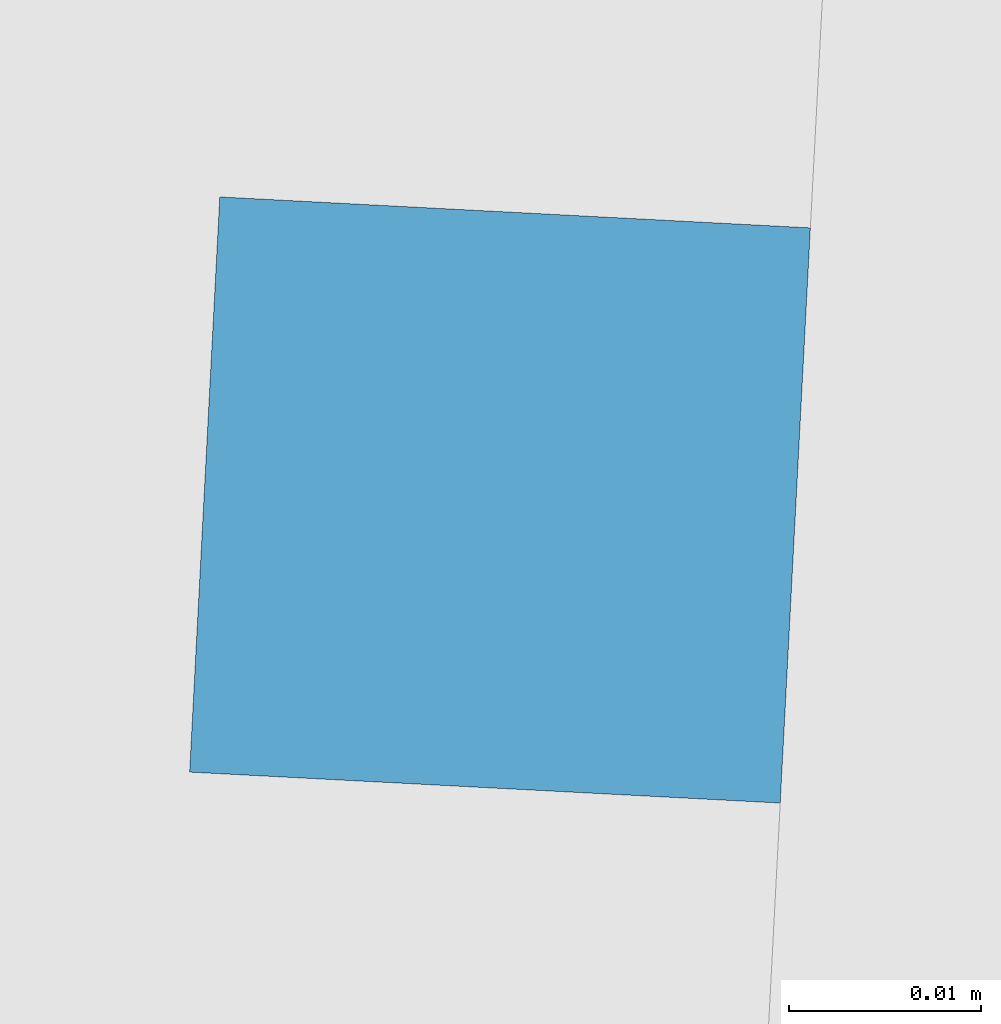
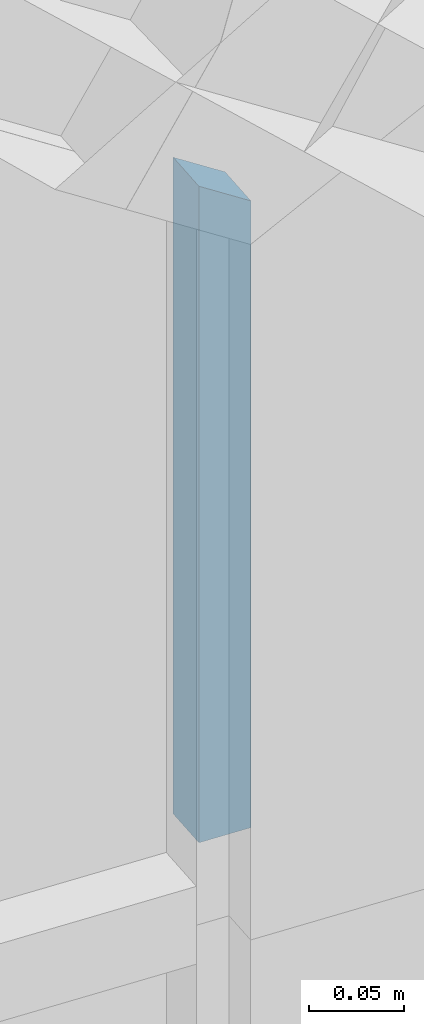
# One storey, part 70 of 82: 1 plate, 1 element without a shape of its own.
"""IFC2X3 building model written with IfcOpenShell, lengths in millimetres."""

from ifc_helpers import new_model, entity, si_unit, converted_unit, derived_unit, direction, frame, origin, place, context, subcontext, project, spatial, faceted_brep, source, transform, mapped, material, layer, layer_set, type_object, type_shapes, element, aggregate, save


model = new_model("IFC2X3")

# Units and contexts
model_context = context("Model", 3, precision=0.01, world=origin(), true_north=direction((6.12303176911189e-17, 1.0)))
body_context = subcontext(model_context, "Body", "Model", "MODEL_VIEW")
ifc_project = project(units=[si_unit("LENGTHUNIT", "METRE", prefix="MILLI"), si_unit("AREAUNIT", "SQUARE_METRE"), si_unit("VOLUMEUNIT", "CUBIC_METRE"), converted_unit("PLANEANGLEUNIT", "DEGREE", entity("IfcRatioMeasure", 0.0174532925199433), si_unit("PLANEANGLEUNIT", "RADIAN"), dimensions=[0, 0, 0, 0, 0, 0, 0]), si_unit("MASSUNIT", "GRAM", prefix="KILO"), derived_unit("MASSDENSITYUNIT", [(si_unit("MASSUNIT", "GRAM", prefix="KILO"), 1), (si_unit("LENGTHUNIT", "METRE"), -3)]), si_unit("TIMEUNIT", "SECOND"), si_unit("FREQUENCYUNIT", "HERTZ"), si_unit("THERMODYNAMICTEMPERATUREUNIT", "DEGREE_CELSIUS"), derived_unit("THERMALTRANSMITTANCEUNIT", [(si_unit("MASSUNIT", "GRAM", prefix="KILO"), 1), (si_unit("THERMODYNAMICTEMPERATUREUNIT", "KELVIN"), -1), (si_unit("TIMEUNIT", "SECOND"), -3)]), derived_unit("VOLUMETRICFLOWRATEUNIT", [(si_unit("LENGTHUNIT", "METRE"), 3), (si_unit("TIMEUNIT", "SECOND"), -1)]), si_unit("ELECTRICCURRENTUNIT", "AMPERE"), si_unit("ELECTRICVOLTAGEUNIT", "VOLT"), si_unit("POWERUNIT", "WATT"), si_unit("FORCEUNIT", "NEWTON", prefix="KILO"), si_unit("ILLUMINANCEUNIT", "LUX"), si_unit("LUMINOUSFLUXUNIT", "LUMEN"), si_unit("LUMINOUSINTENSITYUNIT", "CANDELA"), derived_unit("USERDEFINED", [(si_unit("MASSUNIT", "GRAM", prefix="KILO"), -1), (si_unit("LENGTHUNIT", "METRE"), -2), (si_unit("TIMEUNIT", "SECOND"), 3), (si_unit("LUMINOUSFLUXUNIT", "LUMEN"), 1)]), derived_unit("LINEARVELOCITYUNIT", [(si_unit("LENGTHUNIT", "METRE"), 1), (si_unit("TIMEUNIT", "SECOND"), -1)]), si_unit("PRESSUREUNIT", "PASCAL"), derived_unit("USERDEFINED", [(si_unit("LENGTHUNIT", "METRE"), -2), (si_unit("MASSUNIT", "GRAM", prefix="KILO"), 1), (si_unit("TIMEUNIT", "SECOND"), -2)])], contexts=[model_context])

# Site, building, storey
site_placement = place(None, origin())
site = spatial("IfcSite", under=ifc_project, at=site_placement, Name="表面", CompositionType="ELEMENT")
building_placement = place(site_placement, origin())
building = spatial("IfcBuilding", under=site, at=building_placement, CompositionType="ELEMENT")
storey_placement = place(building_placement, origin())
storey = spatial("IfcBuildingStorey", under=building, at=storey_placement, Name="1F", CompositionType="ELEMENT", Elevation=0.0)

# Curtain wall, plate
curtain_wall_type = type_object("IfcCurtainWallType", Name="幕墙系统:1450 x 2100mm", PredefinedType="NOTDEFINED")
curtain_wall_placement = place(storey_placement, origin())
curtain_wall = element("IfcCurtainWall", 1, at=curtain_wall_placement, inside=storey, type_object=curtain_wall_type, Name="幕墙系统:1450 x 2100mm", ObjectType="幕墙系统:1450 x 2100mm")
ifc_material = material(Name="<Unnamed>")
ifc_layer = layer(ifc_material, 30.0)
ifc_layer_set = layer_set([ifc_layer], Name="幕墙系统:1450 x 2100mm")
plate_type = type_object("IfcPlateType", Name="玻璃", PredefinedType="CURTAIN_PANEL", material=ifc_layer_set)
shared_shape = source(origin(), body_context, "Body", "Brep", [
    faceted_brep([(15.4015112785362, -15.0, 0.0), (15.4015112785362, -15.0, 402.773080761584), (-15.4015112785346, -15.0, 421.994566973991), (-15.4015112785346, -15.0, 0.0), (15.4015112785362, 15.0, 0.0), (-15.4015112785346, 15.0, 0.0), (-15.4015112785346, 15.0, 421.99456697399), (15.4015112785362, 15.0, 402.773080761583)], [[[0, 1, 2, 3]], [[4, 5, 6, 7]], [[3, 5, 4, 0]], [[2, 6, 5, 3]], [[1, 7, 6, 2]], [[0, 4, 7, 1]]]),
])
type_shapes(plate_type, [shared_shape])
plate_placement = place(curtain_wall_placement, frame((-18272.6126372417, 2177.04399687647, 10525.0), z_axis=(0.0, 0.0, 1.0), x_axis=(0.998629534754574, -0.0523359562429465, 0.0)))
plate = element("IfcPlate", 2, at=plate_placement, type_object=plate_type, Name="系统嵌板:玻璃", ObjectType="玻璃", context=body_context, shape_type="MappedRepresentation", body=[
    mapped(shared_shape, transform((0.0, 0.0, 0.0), scale=1.0)),
])
aggregate(curtain_wall, [plate])

save(model, "model.ifc")
